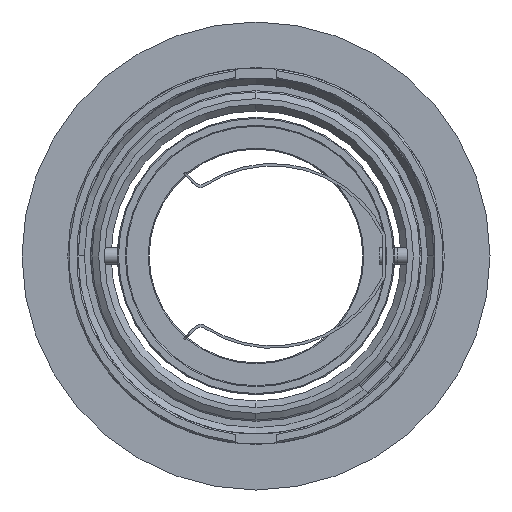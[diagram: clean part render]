
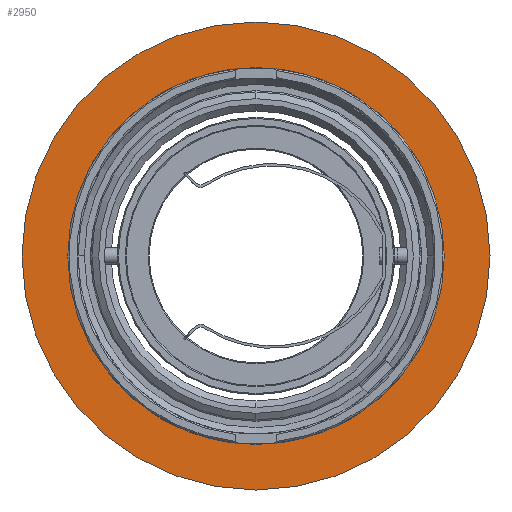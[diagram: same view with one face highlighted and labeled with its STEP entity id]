
A CAD part, front view. The second image highlights one B-rep face of the part: STEP entity #2950.
In plain terms, the highlighted planar face has unit normal (0, -1, 0) as drawn and (0, 0, -1) by its records, which use the part's own axes.
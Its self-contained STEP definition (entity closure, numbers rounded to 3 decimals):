
#52=FACE_BOUND('',#493,.T.);
#202=PLANE('',#3220);
#317=FACE_OUTER_BOUND('',#492,.T.);
#492=EDGE_LOOP('',(#2383,#2384));
#493=EDGE_LOOP('',(#2385,#2386));
#1102=CIRCLE('',#3216,46.);
#1104=CIRCLE('',#3219,46.);
#1105=CIRCLE('',#3221,35.4);
#1106=CIRCLE('',#3222,35.4);
#1339=VERTEX_POINT('',#5097);
#1340=VERTEX_POINT('',#5099);
#1341=VERTEX_POINT('',#5106);
#1342=VERTEX_POINT('',#5107);
#1715=EDGE_CURVE('',#1340,#1339,#1102,.T.);
#1718=EDGE_CURVE('',#1339,#1340,#1104,.T.);
#1719=EDGE_CURVE('',#1341,#1342,#1105,.T.);
#1720=EDGE_CURVE('',#1342,#1341,#1106,.T.);
#2383=ORIENTED_EDGE('',*,*,#1718,.T.);
#2384=ORIENTED_EDGE('',*,*,#1715,.T.);
#2385=ORIENTED_EDGE('',*,*,#1719,.F.);
#2386=ORIENTED_EDGE('',*,*,#1720,.F.);
#2950=ADVANCED_FACE('',(#317,#52),#202,.T.);
#3216=AXIS2_PLACEMENT_3D('',#5100,#3862,#3863);
#3219=AXIS2_PLACEMENT_3D('',#5104,#3869,#3870);
#3220=AXIS2_PLACEMENT_3D('',#5105,#3871,#3872);
#3221=AXIS2_PLACEMENT_3D('',#5108,#3873,#3874);
#3222=AXIS2_PLACEMENT_3D('',#5109,#3875,#3876);
#3862=DIRECTION('center_axis',(0.,0.,-1.));
#3863=DIRECTION('ref_axis',(-1.,0.,0.));
#3869=DIRECTION('center_axis',(0.,0.,-1.));
#3870=DIRECTION('ref_axis',(-1.,0.,0.));
#3871=DIRECTION('center_axis',(0.,0.,-1.));
#3872=DIRECTION('ref_axis',(-1.,0.,0.));
#3873=DIRECTION('center_axis',(0.,0.,-1.));
#3874=DIRECTION('ref_axis',(-1.,0.,0.));
#3875=DIRECTION('center_axis',(0.,0.,-1.));
#3876=DIRECTION('ref_axis',(-1.,0.,0.));
#5097=CARTESIAN_POINT('',(-46.,0.,-3.1));
#5099=CARTESIAN_POINT('',(46.,0.,-3.1));
#5100=CARTESIAN_POINT('Origin',(0.,0.,
-3.1));
#5104=CARTESIAN_POINT('Origin',(0.,0.,
-3.1));
#5105=CARTESIAN_POINT('Origin',(0.,0.,
-3.1));
#5106=CARTESIAN_POINT('',(35.4,0.,-3.1));
#5107=CARTESIAN_POINT('',(-35.4,0.,-3.1));
#5108=CARTESIAN_POINT('Origin',(0.,0.,
-3.1));
#5109=CARTESIAN_POINT('Origin',(0.,0.,
-3.1));
